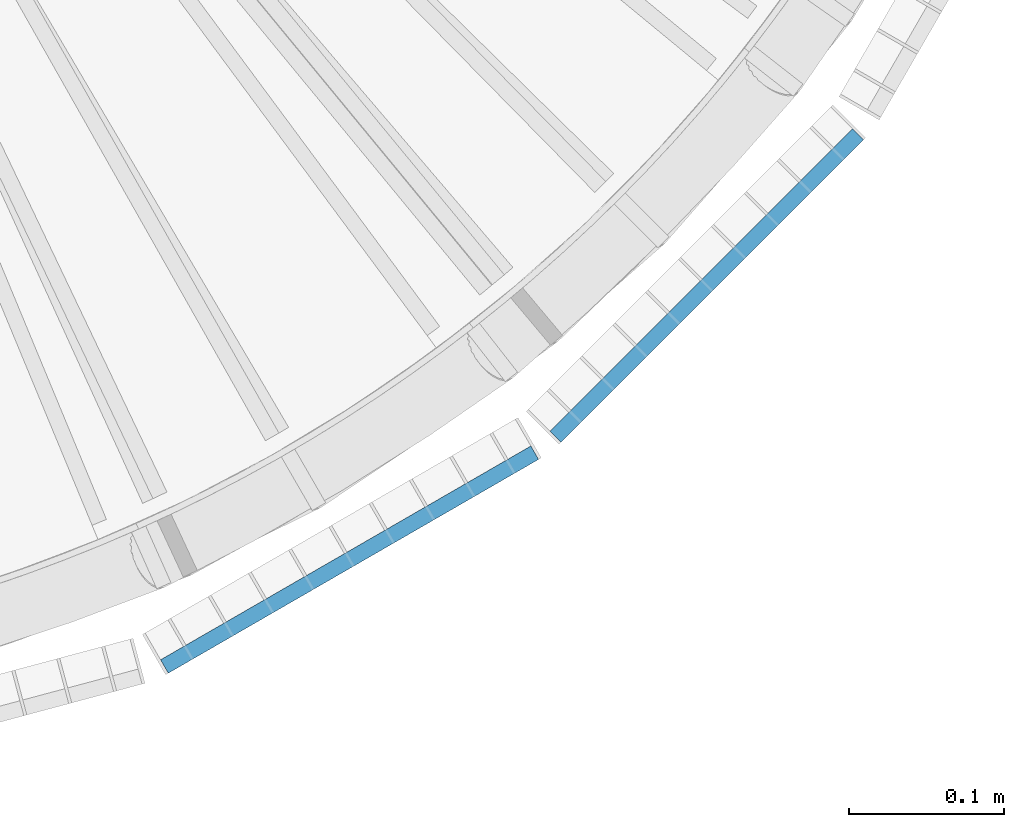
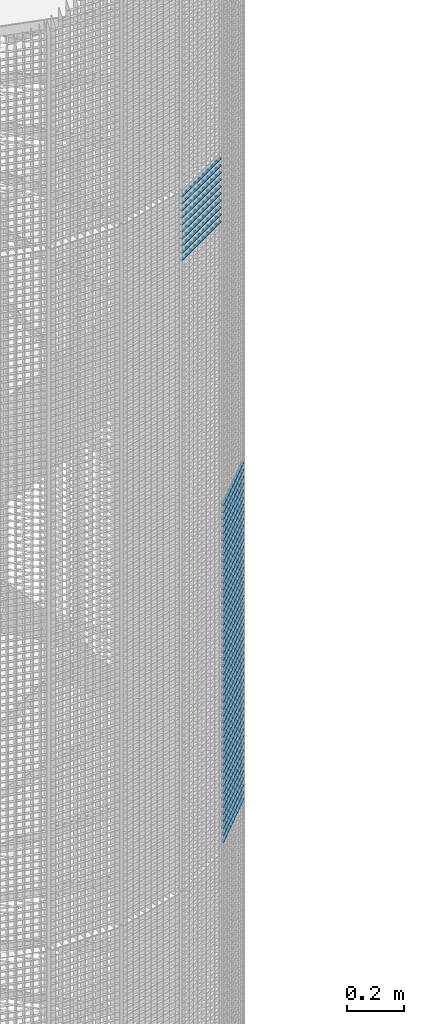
# One storey, part 261 of 1183: 59 beams, 2 elements without a shape of their own.
"""IFC2X3 building model written with IfcOpenShell, lengths in millimetres."""

from ifc_helpers import new_model, si_unit, frame, origin_with_axes, origin_2d_with_axis, place, context, subcontext, project, spatial, rectangle, extrude, material, type_object, element, aggregate, save


model = new_model("IFC2X3")

# Units and contexts
model_context = context("Model", 3, precision=1e-05, world=origin_with_axes())
body_context = subcontext(model_context, "Body", "Model", "MODEL_VIEW")
ifc_project = project(units=[si_unit("LENGTHUNIT", "METRE", prefix="MILLI"), si_unit("AREAUNIT", "SQUARE_METRE"), si_unit("VOLUMEUNIT", "CUBIC_METRE"), si_unit("MASSUNIT", "GRAM", prefix="KILO"), si_unit("TIMEUNIT", "SECOND"), si_unit("PLANEANGLEUNIT", "RADIAN"), si_unit("SOLIDANGLEUNIT", "STERADIAN"), si_unit("THERMODYNAMICTEMPERATUREUNIT", "DEGREE_CELSIUS"), si_unit("LUMINOUSINTENSITYUNIT", "LUMEN")], contexts=[model_context])

# Site, building, storey
site_placement = place(None, origin_with_axes())
site = spatial("IfcSite", under=ifc_project, at=site_placement, Name="Undefined", CompositionType="ELEMENT")
building_placement = place(site_placement, origin_with_axes())
building = spatial("IfcBuilding", under=site, at=building_placement, Name="Undefined", CompositionType="ELEMENT")
storey_placement = place(building_placement, origin_with_axes())
storey = spatial("IfcBuildingStorey", under=building, at=storey_placement, Name="Undefined", CompositionType="ELEMENT", Elevation=0.0)

# Assembly, beams
assembly_1_placement = place(storey_placement, origin_with_axes())
assembly_1 = element("IfcElementAssembly", 1, at=assembly_1_placement, inside=storey, Name="BORDURE", AssemblyPlace="NOTDEFINED", PredefinedType="NOTDEFINED")
ifc_material = material(Name="STEEL/S235JR")
beam_type = type_object("IfcBeamType", Name="PL2*10", PredefinedType="NOTDEFINED")
beam_1_placement = place(assembly_1_placement, frame((689.771348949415, -884.927168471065, 4470.0), z_axis=(0.707106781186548, -0.707106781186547, 0.0), x_axis=(0.707106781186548, 0.707106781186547, 0.0)))
beam_1 = element("IfcBeam", 2, at=beam_1_placement, type_object=beam_type, material=ifc_material, Name="ENTRETOISE", context=body_context, shape_type="SweptSolid", body=[
    extrude(rectangle(XDim=2.0, YDim=10.0, at=origin_2d_with_axis()), frame((275.999999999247, 9.09494701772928e-13, 1.53210777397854e-14), z_axis=(-1.0, 0.0, 0.0), x_axis=(0.0, -1.0, 0.0)), (0.0, 0.0, 1.0), 276.0),
])
beam_2_placement = place(assembly_1_placement, frame((689.771348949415, -884.927168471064, 4440.0), z_axis=(0.707106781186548, -0.707106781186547, 0.0), x_axis=(0.707106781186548, 0.707106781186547, 0.0)))
beam_2 = element("IfcBeam", 3, at=beam_2_placement, type_object=beam_type, material=ifc_material, Name="ENTRETOISE", context=body_context, shape_type="SweptSolid", body=[
    extrude(rectangle(XDim=2.0, YDim=10.0, at=origin_2d_with_axis()), frame((275.999999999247, 9.09494701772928e-13, 1.53210777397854e-14), z_axis=(-1.0, 0.0, 0.0), x_axis=(0.0, -1.0, 0.0)), (0.0, 0.0, 1.0), 276.0),
])
beam_3_placement = place(assembly_1_placement, frame((689.771348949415, -884.927168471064, 4410.0), z_axis=(0.707106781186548, -0.707106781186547, 0.0), x_axis=(0.707106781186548, 0.707106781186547, 0.0)))
beam_3 = element("IfcBeam", 4, at=beam_3_placement, type_object=beam_type, material=ifc_material, Name="ENTRETOISE", context=body_context, shape_type="SweptSolid", body=[
    extrude(rectangle(XDim=2.0, YDim=10.0, at=origin_2d_with_axis()), frame((275.999999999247, 9.09494701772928e-13, 1.53210777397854e-14), z_axis=(-1.0, 0.0, 0.0), x_axis=(0.0, -1.0, 0.0)), (0.0, 0.0, 1.0), 276.0),
])
beam_4_placement = place(assembly_1_placement, frame((689.771348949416, -884.927168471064, 4380.0), z_axis=(0.707106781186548, -0.707106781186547, 0.0), x_axis=(0.707106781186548, 0.707106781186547, 0.0)))
beam_4 = element("IfcBeam", 5, at=beam_4_placement, type_object=beam_type, material=ifc_material, Name="ENTRETOISE", context=body_context, shape_type="SweptSolid", body=[
    extrude(rectangle(XDim=2.0, YDim=10.0, at=origin_2d_with_axis()), frame((275.999999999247, 9.09494701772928e-13, 1.53210777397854e-14), z_axis=(-1.0, 0.0, 0.0), x_axis=(0.0, -1.0, 0.0)), (0.0, 0.0, 1.0), 276.0),
])
beam_5_placement = place(assembly_1_placement, frame((689.771348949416, -884.927168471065, 4350.0), z_axis=(0.707106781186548, -0.707106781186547, 0.0), x_axis=(0.707106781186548, 0.707106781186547, 0.0)))
beam_5 = element("IfcBeam", 6, at=beam_5_placement, type_object=beam_type, material=ifc_material, Name="ENTRETOISE", context=body_context, shape_type="SweptSolid", body=[
    extrude(rectangle(XDim=2.0, YDim=10.0, at=origin_2d_with_axis()), frame((275.999999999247, 9.09494701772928e-13, 1.53210777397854e-14), z_axis=(-1.0, 0.0, 0.0), x_axis=(0.0, -1.0, 0.0)), (0.0, 0.0, 1.0), 276.0),
])
beam_6_placement = place(assembly_1_placement, frame((689.771348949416, -884.927168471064, 4320.0), z_axis=(0.707106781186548, -0.707106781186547, 0.0), x_axis=(0.707106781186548, 0.707106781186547, 0.0)))
beam_6 = element("IfcBeam", 7, at=beam_6_placement, type_object=beam_type, material=ifc_material, Name="ENTRETOISE", context=body_context, shape_type="SweptSolid", body=[
    extrude(rectangle(XDim=2.0, YDim=10.0, at=origin_2d_with_axis()), frame((275.999999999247, 9.09494701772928e-13, 1.53210777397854e-14), z_axis=(-1.0, 0.0, 0.0), x_axis=(0.0, -1.0, 0.0)), (0.0, 0.0, 1.0), 276.0),
])
beam_7_placement = place(assembly_1_placement, frame((689.771348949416, -884.927168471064, 4290.0), z_axis=(0.707106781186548, -0.707106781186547, 0.0), x_axis=(0.707106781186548, 0.707106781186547, 0.0)))
beam_7 = element("IfcBeam", 8, at=beam_7_placement, type_object=beam_type, material=ifc_material, Name="ENTRETOISE", context=body_context, shape_type="SweptSolid", body=[
    extrude(rectangle(XDim=2.0, YDim=10.0, at=origin_2d_with_axis()), frame((275.999999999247, 9.09494701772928e-13, 1.53210777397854e-14), z_axis=(-1.0, 0.0, 0.0), x_axis=(0.0, -1.0, 0.0)), (0.0, 0.0, 1.0), 276.0),
])
beam_8_placement = place(assembly_1_placement, frame((689.771348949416, -884.927168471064, 4260.0), z_axis=(0.707106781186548, -0.707106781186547, 0.0), x_axis=(0.707106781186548, 0.707106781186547, 0.0)))
beam_8 = element("IfcBeam", 9, at=beam_8_placement, type_object=beam_type, material=ifc_material, Name="ENTRETOISE", context=body_context, shape_type="SweptSolid", body=[
    extrude(rectangle(XDim=2.0, YDim=10.0, at=origin_2d_with_axis()), frame((275.999999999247, 9.09494701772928e-13, 1.53210777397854e-14), z_axis=(-1.0, 0.0, 0.0), x_axis=(0.0, -1.0, 0.0)), (0.0, 0.0, 1.0), 276.0),
])
beam_9_placement = place(assembly_1_placement, frame((689.771348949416, -884.927168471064, 4230.0), z_axis=(0.707106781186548, -0.707106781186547, 0.0), x_axis=(0.707106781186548, 0.707106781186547, 0.0)))
beam_9 = element("IfcBeam", 10, at=beam_9_placement, type_object=beam_type, material=ifc_material, Name="ENTRETOISE", context=body_context, shape_type="SweptSolid", body=[
    extrude(rectangle(XDim=2.0, YDim=10.0, at=origin_2d_with_axis()), frame((275.999999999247, 9.09494701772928e-13, 1.53210777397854e-14), z_axis=(-1.0, 0.0, 0.0), x_axis=(0.0, -1.0, 0.0)), (0.0, 0.0, 1.0), 276.0),
])
beam_10_placement = place(assembly_1_placement, frame((689.771348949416, -884.927168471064, 4200.0), z_axis=(0.707106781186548, -0.707106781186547, 0.0), x_axis=(0.707106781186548, 0.707106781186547, 0.0)))
beam_10 = element("IfcBeam", 11, at=beam_10_placement, type_object=beam_type, material=ifc_material, Name="ENTRETOISE", context=body_context, shape_type="SweptSolid", body=[
    extrude(rectangle(XDim=2.0, YDim=10.0, at=origin_2d_with_axis()), frame((275.999999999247, 9.09494701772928e-13, 1.53210777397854e-14), z_axis=(-1.0, 0.0, 0.0), x_axis=(0.0, -1.0, 0.0)), (0.0, 0.0, 1.0), 276.0),
])
beam_11_placement = place(assembly_1_placement, frame((689.771348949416, -884.927168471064, 4170.0), z_axis=(0.707106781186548, -0.707106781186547, 0.0), x_axis=(0.707106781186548, 0.707106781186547, 0.0)))
beam_11 = element("IfcBeam", 12, at=beam_11_placement, type_object=beam_type, material=ifc_material, Name="ENTRETOISE", context=body_context, shape_type="SweptSolid", body=[
    extrude(rectangle(XDim=2.0, YDim=10.0, at=origin_2d_with_axis()), frame((275.999999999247, 9.09494701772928e-13, 1.53210777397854e-14), z_axis=(-1.0, 0.0, 0.0), x_axis=(0.0, -1.0, 0.0)), (0.0, 0.0, 1.0), 276.0),
])
beam_12_placement = place(assembly_1_placement, frame((689.771348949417, -884.927168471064, 4140.0), z_axis=(0.707106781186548, -0.707106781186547, 0.0), x_axis=(0.707106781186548, 0.707106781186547, 0.0)))
beam_12 = element("IfcBeam", 13, at=beam_12_placement, type_object=beam_type, material=ifc_material, Name="ENTRETOISE", context=body_context, shape_type="SweptSolid", body=[
    extrude(rectangle(XDim=2.0, YDim=10.0, at=origin_2d_with_axis()), frame((275.999999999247, 9.09494701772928e-13, 1.53210777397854e-14), z_axis=(-1.0, 0.0, 0.0), x_axis=(0.0, -1.0, 0.0)), (0.0, 0.0, 1.0), 276.0),
])
beam_13_placement = place(assembly_1_placement, frame((689.771348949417, -884.927168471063, 3720.0), z_axis=(0.707106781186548, -0.707106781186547, 0.0), x_axis=(0.707106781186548, 0.707106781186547, 0.0)))
beam_13 = element("IfcBeam", 14, at=beam_13_placement, type_object=beam_type, material=ifc_material, Name="ENTRETOISE", context=body_context, shape_type="SweptSolid", body=[
    extrude(rectangle(XDim=2.0, YDim=10.0, at=origin_2d_with_axis()), frame((275.999999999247, 9.09494701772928e-13, 1.53210777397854e-14), z_axis=(-1.0, 0.0, 0.0), x_axis=(0.0, -1.0, 0.0)), (0.0, 0.0, 1.0), 276.0),
])
beam_14_placement = place(assembly_1_placement, frame((689.771348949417, -884.927168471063, 3690.0), z_axis=(0.707106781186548, -0.707106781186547, 0.0), x_axis=(0.707106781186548, 0.707106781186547, 0.0)))
beam_14 = element("IfcBeam", 15, at=beam_14_placement, type_object=beam_type, material=ifc_material, Name="ENTRETOISE", context=body_context, shape_type="SweptSolid", body=[
    extrude(rectangle(XDim=2.0, YDim=10.0, at=origin_2d_with_axis()), frame((275.999999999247, 9.09494701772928e-13, 1.53210777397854e-14), z_axis=(-1.0, 0.0, 0.0), x_axis=(0.0, -1.0, 0.0)), (0.0, 0.0, 1.0), 276.0),
])
beam_15_placement = place(assembly_1_placement, frame((689.771348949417, -884.927168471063, 3750.0), z_axis=(0.707106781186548, -0.707106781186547, 0.0), x_axis=(0.707106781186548, 0.707106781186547, 0.0)))
beam_15 = element("IfcBeam", 16, at=beam_15_placement, type_object=beam_type, material=ifc_material, Name="ENTRETOISE", context=body_context, shape_type="SweptSolid", body=[
    extrude(rectangle(XDim=2.0, YDim=10.0, at=origin_2d_with_axis()), frame((275.999999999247, 9.09494701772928e-13, 1.53210777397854e-14), z_axis=(-1.0, 0.0, 0.0), x_axis=(0.0, -1.0, 0.0)), (0.0, 0.0, 1.0), 276.0),
])
beam_16_placement = place(assembly_1_placement, frame((689.771348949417, -884.927168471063, 3660.0), z_axis=(0.707106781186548, -0.707106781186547, 0.0), x_axis=(0.707106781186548, 0.707106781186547, 0.0)))
beam_16 = element("IfcBeam", 17, at=beam_16_placement, type_object=beam_type, material=ifc_material, Name="ENTRETOISE", context=body_context, shape_type="SweptSolid", body=[
    extrude(rectangle(XDim=2.0, YDim=10.0, at=origin_2d_with_axis()), frame((275.999999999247, 9.09494701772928e-13, 1.53210777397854e-14), z_axis=(-1.0, 0.0, 0.0), x_axis=(0.0, -1.0, 0.0)), (0.0, 0.0, 1.0), 276.0),
])
beam_17_placement = place(assembly_1_placement, frame((689.771348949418, -884.927168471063, 3630.0), z_axis=(0.707106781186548, -0.707106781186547, 0.0), x_axis=(0.707106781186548, 0.707106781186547, 0.0)))
beam_17 = element("IfcBeam", 18, at=beam_17_placement, type_object=beam_type, material=ifc_material, Name="ENTRETOISE", context=body_context, shape_type="SweptSolid", body=[
    extrude(rectangle(XDim=2.0, YDim=10.0, at=origin_2d_with_axis()), frame((275.999999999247, 9.09494701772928e-13, 1.53210777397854e-14), z_axis=(-1.0, 0.0, 0.0), x_axis=(0.0, -1.0, 0.0)), (0.0, 0.0, 1.0), 276.0),
])
beam_18_placement = place(assembly_1_placement, frame((689.771348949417, -884.927168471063, 3780.0), z_axis=(0.707106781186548, -0.707106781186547, 0.0), x_axis=(0.707106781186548, 0.707106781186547, 0.0)))
beam_18 = element("IfcBeam", 19, at=beam_18_placement, type_object=beam_type, material=ifc_material, Name="ENTRETOISE", context=body_context, shape_type="SweptSolid", body=[
    extrude(rectangle(XDim=2.0, YDim=10.0, at=origin_2d_with_axis()), frame((275.999999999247, 9.09494701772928e-13, 1.53210777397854e-14), z_axis=(-1.0, 0.0, 0.0), x_axis=(0.0, -1.0, 0.0)), (0.0, 0.0, 1.0), 276.0),
])
beam_19_placement = place(assembly_1_placement, frame((689.771348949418, -884.927168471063, 3600.0), z_axis=(0.707106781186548, -0.707106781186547, 0.0), x_axis=(0.707106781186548, 0.707106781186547, 0.0)))
beam_19 = element("IfcBeam", 20, at=beam_19_placement, type_object=beam_type, material=ifc_material, Name="ENTRETOISE", context=body_context, shape_type="SweptSolid", body=[
    extrude(rectangle(XDim=2.0, YDim=10.0, at=origin_2d_with_axis()), frame((275.999999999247, 9.09494701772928e-13, 1.53210777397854e-14), z_axis=(-1.0, 0.0, 0.0), x_axis=(0.0, -1.0, 0.0)), (0.0, 0.0, 1.0), 276.0),
])
beam_20_placement = place(assembly_1_placement, frame((689.771348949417, -884.927168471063, 3810.0), z_axis=(0.707106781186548, -0.707106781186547, 0.0), x_axis=(0.707106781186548, 0.707106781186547, 0.0)))
beam_20 = element("IfcBeam", 21, at=beam_20_placement, type_object=beam_type, material=ifc_material, Name="ENTRETOISE", context=body_context, shape_type="SweptSolid", body=[
    extrude(rectangle(XDim=2.0, YDim=10.0, at=origin_2d_with_axis()), frame((275.999999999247, 9.09494701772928e-13, 1.53210777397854e-14), z_axis=(-1.0, 0.0, 0.0), x_axis=(0.0, -1.0, 0.0)), (0.0, 0.0, 1.0), 276.0),
])
beam_21_placement = place(assembly_1_placement, frame((689.771348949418, -884.927168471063, 3570.0), z_axis=(0.707106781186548, -0.707106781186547, 0.0), x_axis=(0.707106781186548, 0.707106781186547, 0.0)))
beam_21 = element("IfcBeam", 22, at=beam_21_placement, type_object=beam_type, material=ifc_material, Name="ENTRETOISE", context=body_context, shape_type="SweptSolid", body=[
    extrude(rectangle(XDim=2.0, YDim=10.0, at=origin_2d_with_axis()), frame((275.999999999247, 9.09494701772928e-13, 1.53210777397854e-14), z_axis=(-1.0, 0.0, 0.0), x_axis=(0.0, -1.0, 0.0)), (0.0, 0.0, 1.0), 276.0),
])
beam_22_placement = place(assembly_1_placement, frame((689.771348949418, -884.927168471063, 3540.0), z_axis=(0.707106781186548, -0.707106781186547, 0.0), x_axis=(0.707106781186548, 0.707106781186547, 0.0)))
beam_22 = element("IfcBeam", 23, at=beam_22_placement, type_object=beam_type, material=ifc_material, Name="ENTRETOISE", context=body_context, shape_type="SweptSolid", body=[
    extrude(rectangle(XDim=2.0, YDim=10.0, at=origin_2d_with_axis()), frame((275.999999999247, 9.09494701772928e-13, 1.53210777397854e-14), z_axis=(-1.0, 0.0, 0.0), x_axis=(0.0, -1.0, 0.0)), (0.0, 0.0, 1.0), 276.0),
])
beam_23_placement = place(assembly_1_placement, frame((689.771348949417, -884.927168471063, 3840.0), z_axis=(0.707106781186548, -0.707106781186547, 0.0), x_axis=(0.707106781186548, 0.707106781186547, 0.0)))
beam_23 = element("IfcBeam", 24, at=beam_23_placement, type_object=beam_type, material=ifc_material, Name="ENTRETOISE", context=body_context, shape_type="SweptSolid", body=[
    extrude(rectangle(XDim=2.0, YDim=10.0, at=origin_2d_with_axis()), frame((275.999999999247, 9.09494701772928e-13, 1.53210777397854e-14), z_axis=(-1.0, 0.0, 0.0), x_axis=(0.0, -1.0, 0.0)), (0.0, 0.0, 1.0), 276.0),
])
beam_24_placement = place(assembly_1_placement, frame((689.771348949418, -884.927168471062, 3510.0), z_axis=(0.707106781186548, -0.707106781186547, 0.0), x_axis=(0.707106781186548, 0.707106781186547, 0.0)))
beam_24 = element("IfcBeam", 25, at=beam_24_placement, type_object=beam_type, material=ifc_material, Name="ENTRETOISE", context=body_context, shape_type="SweptSolid", body=[
    extrude(rectangle(XDim=2.0, YDim=10.0, at=origin_2d_with_axis()), frame((275.999999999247, 9.09494701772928e-13, 1.53210777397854e-14), z_axis=(-1.0, 0.0, 0.0), x_axis=(0.0, -1.0, 0.0)), (0.0, 0.0, 1.0), 276.0),
])
beam_25_placement = place(assembly_1_placement, frame((689.771348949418, -884.927168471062, 3480.0), z_axis=(0.707106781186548, -0.707106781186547, 0.0), x_axis=(0.707106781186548, 0.707106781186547, 0.0)))
beam_25 = element("IfcBeam", 26, at=beam_25_placement, type_object=beam_type, material=ifc_material, Name="ENTRETOISE", context=body_context, shape_type="SweptSolid", body=[
    extrude(rectangle(XDim=2.0, YDim=10.0, at=origin_2d_with_axis()), frame((275.999999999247, 9.09494701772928e-13, 1.53210777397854e-14), z_axis=(-1.0, 0.0, 0.0), x_axis=(0.0, -1.0, 0.0)), (0.0, 0.0, 1.0), 276.0),
])
beam_26_placement = place(assembly_1_placement, frame((689.771348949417, -884.927168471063, 3870.0), z_axis=(0.707106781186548, -0.707106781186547, 0.0), x_axis=(0.707106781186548, 0.707106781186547, 0.0)))
beam_26 = element("IfcBeam", 27, at=beam_26_placement, type_object=beam_type, material=ifc_material, Name="ENTRETOISE", context=body_context, shape_type="SweptSolid", body=[
    extrude(rectangle(XDim=2.0, YDim=10.0, at=origin_2d_with_axis()), frame((275.999999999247, 9.09494701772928e-13, 1.53210777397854e-14), z_axis=(-1.0, 0.0, 0.0), x_axis=(0.0, -1.0, 0.0)), (0.0, 0.0, 1.0), 276.0),
])
beam_27_placement = place(assembly_1_placement, frame((689.771348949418, -884.927168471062, 3450.0), z_axis=(0.707106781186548, -0.707106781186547, 0.0), x_axis=(0.707106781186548, 0.707106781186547, 0.0)))
beam_27 = element("IfcBeam", 28, at=beam_27_placement, type_object=beam_type, material=ifc_material, Name="ENTRETOISE", context=body_context, shape_type="SweptSolid", body=[
    extrude(rectangle(XDim=2.0, YDim=10.0, at=origin_2d_with_axis()), frame((275.999999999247, 9.09494701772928e-13, 1.53210777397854e-14), z_axis=(-1.0, 0.0, 0.0), x_axis=(0.0, -1.0, 0.0)), (0.0, 0.0, 1.0), 276.0),
])
beam_28_placement = place(assembly_1_placement, frame((689.771348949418, -884.927168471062, 3420.0), z_axis=(0.707106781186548, -0.707106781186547, 0.0), x_axis=(0.707106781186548, 0.707106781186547, 0.0)))
beam_28 = element("IfcBeam", 29, at=beam_28_placement, type_object=beam_type, material=ifc_material, Name="ENTRETOISE", context=body_context, shape_type="SweptSolid", body=[
    extrude(rectangle(XDim=2.0, YDim=10.0, at=origin_2d_with_axis()), frame((275.999999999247, 9.09494701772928e-13, 1.53210777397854e-14), z_axis=(-1.0, 0.0, 0.0), x_axis=(0.0, -1.0, 0.0)), (0.0, 0.0, 1.0), 276.0),
])
beam_29_placement = place(assembly_1_placement, frame((689.771348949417, -884.927168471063, 3900.0), z_axis=(0.707106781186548, -0.707106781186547, 0.0), x_axis=(0.707106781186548, 0.707106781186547, 0.0)))
beam_29 = element("IfcBeam", 30, at=beam_29_placement, type_object=beam_type, material=ifc_material, Name="ENTRETOISE", context=body_context, shape_type="SweptSolid", body=[
    extrude(rectangle(XDim=2.0, YDim=10.0, at=origin_2d_with_axis()), frame((275.999999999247, 9.09494701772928e-13, 1.53210777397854e-14), z_axis=(-1.0, 0.0, 0.0), x_axis=(0.0, -1.0, 0.0)), (0.0, 0.0, 1.0), 276.0),
])
beam_30_placement = place(assembly_1_placement, frame((689.771348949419, -884.927168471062, 3390.0), z_axis=(0.707106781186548, -0.707106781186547, 0.0), x_axis=(0.707106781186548, 0.707106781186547, 0.0)))
beam_30 = element("IfcBeam", 31, at=beam_30_placement, type_object=beam_type, material=ifc_material, Name="ENTRETOISE", context=body_context, shape_type="SweptSolid", body=[
    extrude(rectangle(XDim=2.0, YDim=10.0, at=origin_2d_with_axis()), frame((275.999999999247, 9.09494701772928e-13, 1.53210777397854e-14), z_axis=(-1.0, 0.0, 0.0), x_axis=(0.0, -1.0, 0.0)), (0.0, 0.0, 1.0), 276.0),
])
beam_31_placement = place(assembly_1_placement, frame((689.771348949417, -884.927168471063, 3930.0), z_axis=(0.707106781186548, -0.707106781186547, 0.0), x_axis=(0.707106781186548, 0.707106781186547, 0.0)))
beam_31 = element("IfcBeam", 32, at=beam_31_placement, type_object=beam_type, material=ifc_material, Name="ENTRETOISE", context=body_context, shape_type="SweptSolid", body=[
    extrude(rectangle(XDim=2.0, YDim=10.0, at=origin_2d_with_axis()), frame((275.999999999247, 9.09494701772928e-13, 1.53210777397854e-14), z_axis=(-1.0, 0.0, 0.0), x_axis=(0.0, -1.0, 0.0)), (0.0, 0.0, 1.0), 276.0),
])
beam_32_placement = place(assembly_1_placement, frame((689.771348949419, -884.927168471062, 3360.0), z_axis=(0.707106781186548, -0.707106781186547, 0.0), x_axis=(0.707106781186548, 0.707106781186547, 0.0)))
beam_32 = element("IfcBeam", 33, at=beam_32_placement, type_object=beam_type, material=ifc_material, Name="ENTRETOISE", context=body_context, shape_type="SweptSolid", body=[
    extrude(rectangle(XDim=2.0, YDim=10.0, at=origin_2d_with_axis()), frame((275.999999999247, 9.09494701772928e-13, 1.53210777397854e-14), z_axis=(-1.0, 0.0, 0.0), x_axis=(0.0, -1.0, 0.0)), (0.0, 0.0, 1.0), 276.0),
])
beam_33_placement = place(assembly_1_placement, frame((689.771348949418, -884.927168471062, 3330.0), z_axis=(0.707106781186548, -0.707106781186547, 0.0), x_axis=(0.707106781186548, 0.707106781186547, 0.0)))
beam_33 = element("IfcBeam", 34, at=beam_33_placement, type_object=beam_type, material=ifc_material, Name="ENTRETOISE", context=body_context, shape_type="SweptSolid", body=[
    extrude(rectangle(XDim=2.0, YDim=10.0, at=origin_2d_with_axis()), frame((275.999999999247, 9.09494701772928e-13, 1.53210777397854e-14), z_axis=(-1.0, 0.0, 0.0), x_axis=(0.0, -1.0, 0.0)), (0.0, 0.0, 1.0), 276.0),
])
beam_34_placement = place(assembly_1_placement, frame((689.771348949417, -884.927168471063, 3960.0), z_axis=(0.707106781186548, -0.707106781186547, 0.0), x_axis=(0.707106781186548, 0.707106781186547, 0.0)))
beam_34 = element("IfcBeam", 35, at=beam_34_placement, type_object=beam_type, material=ifc_material, Name="ENTRETOISE", context=body_context, shape_type="SweptSolid", body=[
    extrude(rectangle(XDim=2.0, YDim=10.0, at=origin_2d_with_axis()), frame((275.999999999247, 9.09494701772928e-13, 1.53210777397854e-14), z_axis=(-1.0, 0.0, 0.0), x_axis=(0.0, -1.0, 0.0)), (0.0, 0.0, 1.0), 276.0),
])
beam_35_placement = place(assembly_1_placement, frame((689.771348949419, -884.927168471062, 3300.0), z_axis=(0.707106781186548, -0.707106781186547, 0.0), x_axis=(0.707106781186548, 0.707106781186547, 0.0)))
beam_35 = element("IfcBeam", 36, at=beam_35_placement, type_object=beam_type, material=ifc_material, Name="ENTRETOISE", context=body_context, shape_type="SweptSolid", body=[
    extrude(rectangle(XDim=2.0, YDim=10.0, at=origin_2d_with_axis()), frame((275.999999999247, 9.09494701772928e-13, 1.53210777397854e-14), z_axis=(-1.0, 0.0, 0.0), x_axis=(0.0, -1.0, 0.0)), (0.0, 0.0, 1.0), 276.0),
])
beam_36_placement = place(assembly_1_placement, frame((689.771348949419, -884.927168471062, 3270.0), z_axis=(0.707106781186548, -0.707106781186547, 0.0), x_axis=(0.707106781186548, 0.707106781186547, 0.0)))
beam_36 = element("IfcBeam", 37, at=beam_36_placement, type_object=beam_type, material=ifc_material, Name="ENTRETOISE", context=body_context, shape_type="SweptSolid", body=[
    extrude(rectangle(XDim=2.0, YDim=10.0, at=origin_2d_with_axis()), frame((275.999999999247, 9.09494701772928e-13, 1.53210777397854e-14), z_axis=(-1.0, 0.0, 0.0), x_axis=(0.0, -1.0, 0.0)), (0.0, 0.0, 1.0), 276.0),
])
beam_37_placement = place(assembly_1_placement, frame((689.771348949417, -884.927168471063, 3990.0), z_axis=(0.707106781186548, -0.707106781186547, 0.0), x_axis=(0.707106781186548, 0.707106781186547, 0.0)))
beam_37 = element("IfcBeam", 38, at=beam_37_placement, type_object=beam_type, material=ifc_material, Name="ENTRETOISE", context=body_context, shape_type="SweptSolid", body=[
    extrude(rectangle(XDim=2.0, YDim=10.0, at=origin_2d_with_axis()), frame((275.999999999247, 9.09494701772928e-13, 1.53210777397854e-14), z_axis=(-1.0, 0.0, 0.0), x_axis=(0.0, -1.0, 0.0)), (0.0, 0.0, 1.0), 276.0),
])
beam_38_placement = place(assembly_1_placement, frame((689.771348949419, -884.927168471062, 3240.0), z_axis=(0.707106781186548, -0.707106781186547, 0.0), x_axis=(0.707106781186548, 0.707106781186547, 0.0)))
beam_38 = element("IfcBeam", 39, at=beam_38_placement, type_object=beam_type, material=ifc_material, Name="ENTRETOISE", context=body_context, shape_type="SweptSolid", body=[
    extrude(rectangle(XDim=2.0, YDim=10.0, at=origin_2d_with_axis()), frame((275.999999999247, 9.09494701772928e-13, 1.53210777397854e-14), z_axis=(-1.0, 0.0, 0.0), x_axis=(0.0, -1.0, 0.0)), (0.0, 0.0, 1.0), 276.0),
])
beam_39_placement = place(assembly_1_placement, frame((689.771348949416, -884.927168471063, 4020.0), z_axis=(0.707106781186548, -0.707106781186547, 0.0), x_axis=(0.707106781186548, 0.707106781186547, 0.0)))
beam_39 = element("IfcBeam", 40, at=beam_39_placement, type_object=beam_type, material=ifc_material, Name="ENTRETOISE", context=body_context, shape_type="SweptSolid", body=[
    extrude(rectangle(XDim=2.0, YDim=10.0, at=origin_2d_with_axis()), frame((275.999999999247, 9.09494701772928e-13, 1.53210777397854e-14), z_axis=(-1.0, 0.0, 0.0), x_axis=(0.0, -1.0, 0.0)), (0.0, 0.0, 1.0), 276.0),
])
beam_40_placement = place(assembly_1_placement, frame((689.771348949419, -884.927168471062, 3210.0), z_axis=(0.707106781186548, -0.707106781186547, 0.0), x_axis=(0.707106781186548, 0.707106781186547, 0.0)))
beam_40 = element("IfcBeam", 41, at=beam_40_placement, type_object=beam_type, material=ifc_material, Name="ENTRETOISE", context=body_context, shape_type="SweptSolid", body=[
    extrude(rectangle(XDim=2.0, YDim=10.0, at=origin_2d_with_axis()), frame((275.999999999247, 9.09494701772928e-13, 1.53210777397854e-14), z_axis=(-1.0, 0.0, 0.0), x_axis=(0.0, -1.0, 0.0)), (0.0, 0.0, 1.0), 276.0),
])
beam_41_placement = place(assembly_1_placement, frame((689.771348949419, -884.927168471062, 3180.0), z_axis=(0.707106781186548, -0.707106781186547, 0.0), x_axis=(0.707106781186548, 0.707106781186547, 0.0)))
beam_41 = element("IfcBeam", 42, at=beam_41_placement, type_object=beam_type, material=ifc_material, Name="ENTRETOISE", context=body_context, shape_type="SweptSolid", body=[
    extrude(rectangle(XDim=2.0, YDim=10.0, at=origin_2d_with_axis()), frame((275.999999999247, 9.09494701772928e-13, 1.53210777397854e-14), z_axis=(-1.0, 0.0, 0.0), x_axis=(0.0, -1.0, 0.0)), (0.0, 0.0, 1.0), 276.0),
])
beam_42_placement = place(assembly_1_placement, frame((689.771348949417, -884.927168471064, 4050.0), z_axis=(0.707106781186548, -0.707106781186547, 0.0), x_axis=(0.707106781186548, 0.707106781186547, 0.0)))
beam_42 = element("IfcBeam", 43, at=beam_42_placement, type_object=beam_type, material=ifc_material, Name="ENTRETOISE", context=body_context, shape_type="SweptSolid", body=[
    extrude(rectangle(XDim=2.0, YDim=10.0, at=origin_2d_with_axis()), frame((275.999999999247, 9.09494701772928e-13, 1.53210777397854e-14), z_axis=(-1.0, 0.0, 0.0), x_axis=(0.0, -1.0, 0.0)), (0.0, 0.0, 1.0), 276.0),
])
beam_43_placement = place(assembly_1_placement, frame((689.771348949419, -884.927168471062, 3150.0), z_axis=(0.707106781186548, -0.707106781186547, 0.0), x_axis=(0.707106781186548, 0.707106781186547, 0.0)))
beam_43 = element("IfcBeam", 44, at=beam_43_placement, type_object=beam_type, material=ifc_material, Name="ENTRETOISE", context=body_context, shape_type="SweptSolid", body=[
    extrude(rectangle(XDim=2.0, YDim=10.0, at=origin_2d_with_axis()), frame((275.999999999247, 9.09494701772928e-13, 1.53210777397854e-14), z_axis=(-1.0, 0.0, 0.0), x_axis=(0.0, -1.0, 0.0)), (0.0, 0.0, 1.0), 276.0),
])
beam_44_placement = place(assembly_1_placement, frame((689.771348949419, -884.927168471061, 3120.0), z_axis=(0.707106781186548, -0.707106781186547, 0.0), x_axis=(0.707106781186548, 0.707106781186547, 0.0)))
beam_44 = element("IfcBeam", 45, at=beam_44_placement, type_object=beam_type, material=ifc_material, Name="ENTRETOISE", context=body_context, shape_type="SweptSolid", body=[
    extrude(rectangle(XDim=2.0, YDim=10.0, at=origin_2d_with_axis()), frame((275.999999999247, 9.09494701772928e-13, 1.53210777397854e-14), z_axis=(-1.0, 0.0, 0.0), x_axis=(0.0, -1.0, 0.0)), (0.0, 0.0, 1.0), 276.0),
])
beam_45_placement = place(assembly_1_placement, frame((689.771348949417, -884.927168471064, 4080.0), z_axis=(0.707106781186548, -0.707106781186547, 0.0), x_axis=(0.707106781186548, 0.707106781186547, 0.0)))
beam_45 = element("IfcBeam", 46, at=beam_45_placement, type_object=beam_type, material=ifc_material, Name="ENTRETOISE", context=body_context, shape_type="SweptSolid", body=[
    extrude(rectangle(XDim=2.0, YDim=10.0, at=origin_2d_with_axis()), frame((275.999999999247, 9.09494701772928e-13, 1.53210777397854e-14), z_axis=(-1.0, 0.0, 0.0), x_axis=(0.0, -1.0, 0.0)), (0.0, 0.0, 1.0), 276.0),
])
beam_46_placement = place(assembly_1_placement, frame((689.771348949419, -884.927168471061, 3090.0), z_axis=(0.707106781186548, -0.707106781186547, 0.0), x_axis=(0.707106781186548, 0.707106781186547, 0.0)))
beam_46 = element("IfcBeam", 47, at=beam_46_placement, type_object=beam_type, material=ifc_material, Name="ENTRETOISE", context=body_context, shape_type="SweptSolid", body=[
    extrude(rectangle(XDim=2.0, YDim=10.0, at=origin_2d_with_axis()), frame((275.999999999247, 9.09494701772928e-13, 1.53210777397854e-14), z_axis=(-1.0, 0.0, 0.0), x_axis=(0.0, -1.0, 0.0)), (0.0, 0.0, 1.0), 276.0),
])
beam_47_placement = place(assembly_1_placement, frame((689.771348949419, -884.927168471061, 3060.0), z_axis=(0.707106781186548, -0.707106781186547, 0.0), x_axis=(0.707106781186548, 0.707106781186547, 0.0)))
beam_47 = element("IfcBeam", 48, at=beam_47_placement, type_object=beam_type, material=ifc_material, Name="ENTRETOISE", context=body_context, shape_type="SweptSolid", body=[
    extrude(rectangle(XDim=2.0, YDim=10.0, at=origin_2d_with_axis()), frame((275.999999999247, 9.09494701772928e-13, 1.53210777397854e-14), z_axis=(-1.0, 0.0, 0.0), x_axis=(0.0, -1.0, 0.0)), (0.0, 0.0, 1.0), 276.0),
])
beam_48_placement = place(assembly_1_placement, frame((689.771348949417, -884.927168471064, 4110.0), z_axis=(0.707106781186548, -0.707106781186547, 0.0), x_axis=(0.707106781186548, 0.707106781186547, 0.0)))
beam_48 = element("IfcBeam", 49, at=beam_48_placement, type_object=beam_type, material=ifc_material, Name="ENTRETOISE", context=body_context, shape_type="SweptSolid", body=[
    extrude(rectangle(XDim=2.0, YDim=10.0, at=origin_2d_with_axis()), frame((275.999999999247, 9.09494701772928e-13, 1.53210777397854e-14), z_axis=(-1.0, 0.0, 0.0), x_axis=(0.0, -1.0, 0.0)), (0.0, 0.0, 1.0), 276.0),
])
beam_49_placement = place(assembly_1_placement, frame((689.77134894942, -884.92716847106, 3030.0), z_axis=(0.707106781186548, -0.707106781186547, 0.0), x_axis=(0.707106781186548, 0.707106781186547, 0.0)))
beam_49 = element("IfcBeam", 50, at=beam_49_placement, type_object=beam_type, material=ifc_material, Name="ENTRETOISE", context=body_context, shape_type="SweptSolid", body=[
    extrude(rectangle(XDim=2.0, YDim=10.0, at=origin_2d_with_axis()), frame((275.999999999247, 9.09494701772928e-13, 1.53210777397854e-14), z_axis=(-1.0, 0.0, 0.0), x_axis=(0.0, -1.0, 0.0)), (0.0, 0.0, 1.0), 276.0),
])
aggregate(assembly_1, [beam_1, beam_2, beam_3, beam_4, beam_5, beam_6, beam_7, beam_8, beam_9, beam_10, beam_11, beam_12, beam_13, beam_14, beam_15, beam_16, beam_17, beam_18, beam_19, beam_20, beam_21, beam_22, beam_23, beam_24, beam_25, beam_26, beam_27, beam_28, beam_29, beam_30, beam_31, beam_32, beam_33, beam_34, beam_35, beam_36, beam_37, beam_38, beam_39, beam_40, beam_41, beam_42, beam_43, beam_44, beam_45, beam_46, beam_47, beam_48, beam_49])

assembly_2_placement = place(storey_placement, origin_with_axes())
assembly_2 = element("IfcElementAssembly", 51, at=assembly_2_placement, inside=storey, Name="BORDURE", AssemblyPlace="NOTDEFINED", PredefinedType="NOTDEFINED")
beam_50_placement = place(assembly_2_placement, frame((437.231955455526, -1033.29996828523, 5970.0), z_axis=(0.499999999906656, -0.866025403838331, 0.0), x_axis=(0.866025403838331, 0.499999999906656, 0.0)))
beam_50 = element("IfcBeam", 52, at=beam_50_placement, type_object=beam_type, material=ifc_material, Name="ENTRETOISE", context=body_context, shape_type="SweptSolid", body=[
    extrude(rectangle(XDim=2.0, YDim=10.0, at=origin_2d_with_axis()), frame((275.999999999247, 9.09494701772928e-13, 1.53210777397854e-14), z_axis=(-1.0, 0.0, 0.0), x_axis=(0.0, -1.0, 0.0)), (0.0, 0.0, 1.0), 276.0),
])
beam_51_placement = place(assembly_2_placement, frame((437.231955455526, -1033.29996828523, 5940.0), z_axis=(0.499999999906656, -0.866025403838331, 0.0), x_axis=(0.866025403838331, 0.499999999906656, 0.0)))
beam_51 = element("IfcBeam", 53, at=beam_51_placement, type_object=beam_type, material=ifc_material, Name="ENTRETOISE", context=body_context, shape_type="SweptSolid", body=[
    extrude(rectangle(XDim=2.0, YDim=10.0, at=origin_2d_with_axis()), frame((275.999999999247, 9.09494701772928e-13, 1.53210777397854e-14), z_axis=(-1.0, 0.0, 0.0), x_axis=(0.0, -1.0, 0.0)), (0.0, 0.0, 1.0), 276.0),
])
beam_52_placement = place(assembly_2_placement, frame((437.231955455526, -1033.29996828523, 5910.0), z_axis=(0.499999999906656, -0.866025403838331, 0.0), x_axis=(0.866025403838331, 0.499999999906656, 0.0)))
beam_52 = element("IfcBeam", 54, at=beam_52_placement, type_object=beam_type, material=ifc_material, Name="ENTRETOISE", context=body_context, shape_type="SweptSolid", body=[
    extrude(rectangle(XDim=2.0, YDim=10.0, at=origin_2d_with_axis()), frame((275.999999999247, 9.09494701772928e-13, 1.53210777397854e-14), z_axis=(-1.0, 0.0, 0.0), x_axis=(0.0, -1.0, 0.0)), (0.0, 0.0, 1.0), 276.0),
])
beam_53_placement = place(assembly_2_placement, frame((437.231955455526, -1033.29996828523, 5880.0), z_axis=(0.499999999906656, -0.866025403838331, 0.0), x_axis=(0.866025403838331, 0.499999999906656, 0.0)))
beam_53 = element("IfcBeam", 55, at=beam_53_placement, type_object=beam_type, material=ifc_material, Name="ENTRETOISE", context=body_context, shape_type="SweptSolid", body=[
    extrude(rectangle(XDim=2.0, YDim=10.0, at=origin_2d_with_axis()), frame((275.999999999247, 9.09494701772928e-13, 1.53210777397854e-14), z_axis=(-1.0, 0.0, 0.0), x_axis=(0.0, -1.0, 0.0)), (0.0, 0.0, 1.0), 276.0),
])
beam_54_placement = place(assembly_2_placement, frame((437.231955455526, -1033.29996828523, 5850.0), z_axis=(0.499999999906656, -0.866025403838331, 0.0), x_axis=(0.866025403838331, 0.499999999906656, 0.0)))
beam_54 = element("IfcBeam", 56, at=beam_54_placement, type_object=beam_type, material=ifc_material, Name="ENTRETOISE", context=body_context, shape_type="SweptSolid", body=[
    extrude(rectangle(XDim=2.0, YDim=10.0, at=origin_2d_with_axis()), frame((275.999999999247, 9.09494701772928e-13, 1.53210777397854e-14), z_axis=(-1.0, 0.0, 0.0), x_axis=(0.0, -1.0, 0.0)), (0.0, 0.0, 1.0), 276.0),
])
beam_55_placement = place(assembly_2_placement, frame((437.231955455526, -1033.29996828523, 5820.0), z_axis=(0.499999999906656, -0.866025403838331, 0.0), x_axis=(0.866025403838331, 0.499999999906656, 0.0)))
beam_55 = element("IfcBeam", 57, at=beam_55_placement, type_object=beam_type, material=ifc_material, Name="ENTRETOISE", context=body_context, shape_type="SweptSolid", body=[
    extrude(rectangle(XDim=2.0, YDim=10.0, at=origin_2d_with_axis()), frame((275.999999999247, 9.09494701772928e-13, 1.53210777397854e-14), z_axis=(-1.0, 0.0, 0.0), x_axis=(0.0, -1.0, 0.0)), (0.0, 0.0, 1.0), 276.0),
])
beam_56_placement = place(assembly_2_placement, frame((437.231955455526, -1033.29996828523, 5790.0), z_axis=(0.499999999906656, -0.866025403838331, 0.0), x_axis=(0.866025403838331, 0.499999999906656, 0.0)))
beam_56 = element("IfcBeam", 58, at=beam_56_placement, type_object=beam_type, material=ifc_material, Name="ENTRETOISE", context=body_context, shape_type="SweptSolid", body=[
    extrude(rectangle(XDim=2.0, YDim=10.0, at=origin_2d_with_axis()), frame((275.999999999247, 9.09494701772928e-13, 1.53210777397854e-14), z_axis=(-1.0, 0.0, 0.0), x_axis=(0.0, -1.0, 0.0)), (0.0, 0.0, 1.0), 276.0),
])
beam_57_placement = place(assembly_2_placement, frame((437.231955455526, -1033.29996828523, 5760.0), z_axis=(0.499999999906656, -0.866025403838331, 0.0), x_axis=(0.866025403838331, 0.499999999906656, 0.0)))
beam_57 = element("IfcBeam", 59, at=beam_57_placement, type_object=beam_type, material=ifc_material, Name="ENTRETOISE", context=body_context, shape_type="SweptSolid", body=[
    extrude(rectangle(XDim=2.0, YDim=10.0, at=origin_2d_with_axis()), frame((275.999999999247, 9.09494701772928e-13, 1.53210777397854e-14), z_axis=(-1.0, 0.0, 0.0), x_axis=(0.0, -1.0, 0.0)), (0.0, 0.0, 1.0), 276.0),
])
beam_58_placement = place(assembly_2_placement, frame((437.231955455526, -1033.29996828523, 5730.0), z_axis=(0.499999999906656, -0.866025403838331, 0.0), x_axis=(0.866025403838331, 0.499999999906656, 0.0)))
beam_58 = element("IfcBeam", 60, at=beam_58_placement, type_object=beam_type, material=ifc_material, Name="ENTRETOISE", context=body_context, shape_type="SweptSolid", body=[
    extrude(rectangle(XDim=2.0, YDim=10.0, at=origin_2d_with_axis()), frame((275.999999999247, 9.09494701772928e-13, 1.53210777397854e-14), z_axis=(-1.0, 0.0, 0.0), x_axis=(0.0, -1.0, 0.0)), (0.0, 0.0, 1.0), 276.0),
])
beam_59_placement = place(assembly_2_placement, frame((437.231955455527, -1033.29996828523, 5700.0), z_axis=(0.499999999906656, -0.866025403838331, 0.0), x_axis=(0.866025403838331, 0.499999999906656, 0.0)))
beam_59 = element("IfcBeam", 61, at=beam_59_placement, type_object=beam_type, material=ifc_material, Name="ENTRETOISE", context=body_context, shape_type="SweptSolid", body=[
    extrude(rectangle(XDim=2.0, YDim=10.0, at=origin_2d_with_axis()), frame((275.999999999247, 9.09494701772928e-13, 1.53210777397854e-14), z_axis=(-1.0, 0.0, 0.0), x_axis=(0.0, -1.0, 0.0)), (0.0, 0.0, 1.0), 276.0),
])
aggregate(assembly_2, [beam_50, beam_51, beam_52, beam_53, beam_54, beam_55, beam_56, beam_57, beam_58, beam_59])

save(model, "model.ifc")
